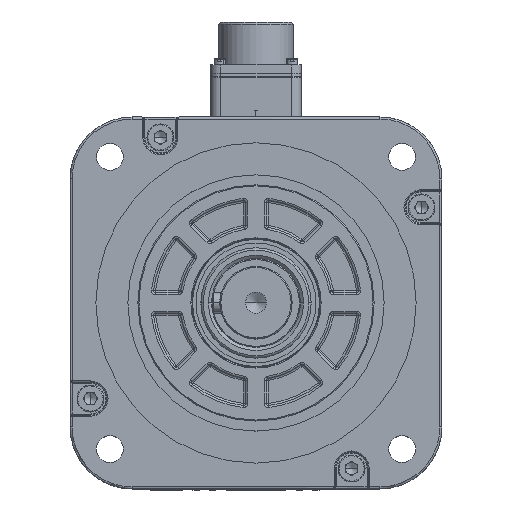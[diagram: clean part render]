
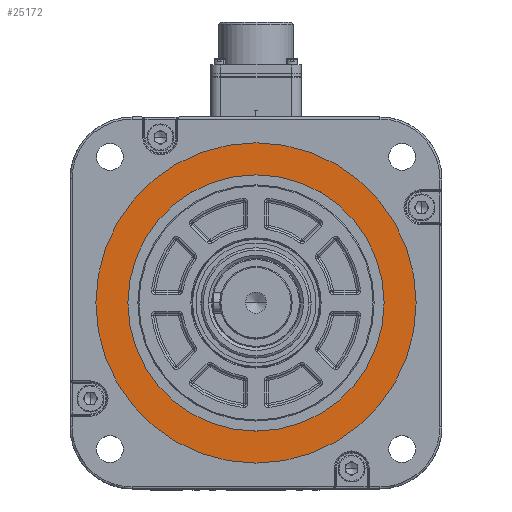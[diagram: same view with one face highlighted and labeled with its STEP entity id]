
A CAD part, top view. The second image highlights one B-rep face of the part: STEP entity #25172.
In plain terms, the highlighted planar face has unit normal (0, 0, 1) as drawn and (0, 0, -1) by its records, which use the part's own axes.
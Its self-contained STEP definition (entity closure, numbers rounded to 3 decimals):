
#1988 = VERTEX_POINT ( 'NONE', #81961 ) ;
#5726 = DIRECTION ( 'NONE',  ( 0., 0., -1. ) ) ;
#7295 = CARTESIAN_POINT ( 'NONE',  ( 0., 0., 1.5 ) ) ;
#7688 = DIRECTION ( 'NONE',  ( 0., 0., 1. ) ) ;
#16771 = PLANE ( 'NONE',  #99801 ) ;
#18195 = CARTESIAN_POINT ( 'NONE',  ( 0., 0., 1.5 ) ) ;
#19903 = ORIENTED_EDGE ( 'NONE', *, *, #108644, .T. ) ;
#20061 = CARTESIAN_POINT ( 'NONE',  ( 0., 0., 1.5 ) ) ;
#22765 = DIRECTION ( 'NONE',  ( -1., 0., 0. ) ) ;
#25057 = FACE_BOUND ( 'NONE', #153811, .T. ) ;
#25172 = ADVANCED_FACE ( 'NONE', ( #25057, #119290 ), #16771, .T. ) ;
#26040 = CIRCLE ( 'NONE', #94526, 62. ) ;
#27537 = DIRECTION ( 'NONE',  ( 0., 0., -1. ) ) ;
#34733 = CARTESIAN_POINT ( 'NONE',  ( -77.5, 0., 1.5 ) ) ;
#36349 = AXIS2_PLACEMENT_3D ( 'NONE', #7295, #5726, #42818 ) ;
#41310 = DIRECTION ( 'NONE',  ( 0., 0., -1. ) ) ;
#42818 = DIRECTION ( 'NONE',  ( -1., 0., 0. ) ) ;
#51256 = ORIENTED_EDGE ( 'NONE', *, *, #65473, .T. ) ;
#55033 = CARTESIAN_POINT ( 'NONE',  ( -62., 0., 1.5 ) ) ;
#60382 = EDGE_CURVE ( 'NONE', #1988, #123055, #111699, .T. ) ;
#65473 = EDGE_CURVE ( 'NONE', #158448, #74304, #26040, .T. ) ;
#69402 = DIRECTION ( 'NONE',  ( -1., 0., 0. ) ) ;
#71876 = AXIS2_PLACEMENT_3D ( 'NONE', #18195, #41310, #115015 ) ;
#74304 = VERTEX_POINT ( 'NONE', #55033 ) ;
#78019 = CARTESIAN_POINT ( 'NONE',  ( 0., 0., 1.5 ) ) ;
#80606 = EDGE_CURVE ( 'NONE', #123055, #1988, #81306, .T. ) ;
#81306 = CIRCLE ( 'NONE', #36349, 77.5 ) ;
#81961 = CARTESIAN_POINT ( 'NONE',  ( 77.5, 0., 1.5 ) ) ;
#90288 = CARTESIAN_POINT ( 'NONE',  ( 62., 0., 1.5 ) ) ;
#94526 = AXIS2_PLACEMENT_3D ( 'NONE', #20061, #7688, #69402 ) ;
#95948 = ORIENTED_EDGE ( 'NONE', *, *, #80606, .T. ) ;
#96339 = DIRECTION ( 'NONE',  ( 0., 0., 1. ) ) ;
#97919 = CARTESIAN_POINT ( 'NONE',  ( 0., 0., 1.5 ) ) ;
#99801 = AXIS2_PLACEMENT_3D ( 'NONE', #78019, #27537, #101709 ) ;
#101709 = DIRECTION ( 'NONE',  ( -1., 0., 0. ) ) ;
#108644 = EDGE_CURVE ( 'NONE', #74304, #158448, #130054, .T. ) ;
#110740 = EDGE_LOOP ( 'NONE', ( #95948, #155484 ) ) ;
#111699 = CIRCLE ( 'NONE', #71876, 77.5 ) ;
#113018 = AXIS2_PLACEMENT_3D ( 'NONE', #97919, #96339, #22765 ) ;
#115015 = DIRECTION ( 'NONE',  ( -1., 0., 0. ) ) ;
#119290 = FACE_OUTER_BOUND ( 'NONE', #110740, .T. ) ;
#123055 = VERTEX_POINT ( 'NONE', #34733 ) ;
#130054 = CIRCLE ( 'NONE', #113018, 62. ) ;
#153811 = EDGE_LOOP ( 'NONE', ( #19903, #51256 ) ) ;
#155484 = ORIENTED_EDGE ( 'NONE', *, *, #60382, .T. ) ;
#158448 = VERTEX_POINT ( 'NONE', #90288 ) ;
